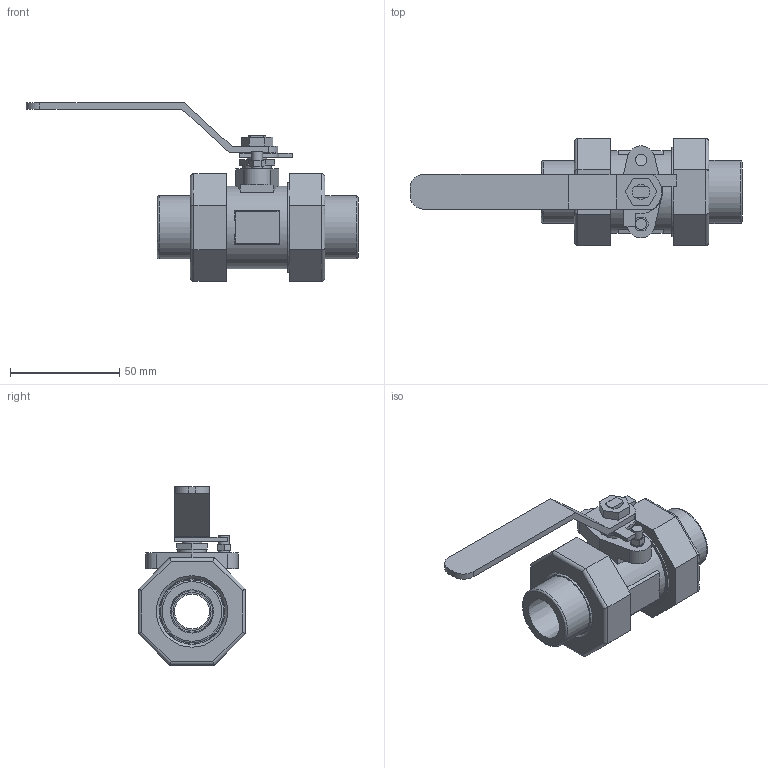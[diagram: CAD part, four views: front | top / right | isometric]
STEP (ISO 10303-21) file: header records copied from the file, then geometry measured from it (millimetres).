
FILE_DESCRIPTION((' '),'2;1');
FILE_NAME('N:\Technical Support\Private\Jomar Valve CAD\Ball Valves\CS and SS\2002N-DUE\.5 T-CS[SS]-2002N-DUE (100-993 [100-983])FusionCopy.stp.step','2017-01-24T13:03:28',(' '),(' '),' ','ACIS',' ');
FILE_SCHEMA(('CONFIG_CONTROL_DESIGN'));
Length unit declared in the file: inch
Products named in the file (14): N:\Technical Support\Private\Jomar Valve CAD\Ball Valves\CS and SS\2002N-DUE\.5 T-CS[SS]-2002N-DUE (100-993 [100-983])FusionCopy.stp.step; Body1; Body2; Body3; Body4; Body5; Body6; Body7; Body8; Body9; Body10; Body11; Body12; Body13
Assembly tree (13 placements, depth 2):
  N:\Technical Support\Private\Jomar Valve CAD\Ball Valves\CS and SS\2002N-DUE\.5 T-CS[SS]-2002N-DUE (100-993 [100-983])FusionCopy.stp.step
    Body1
    Body2
    Body3
    Body4
    Body5
    Body6
    Body7
    Body8
    Body9
    Body10
    Body11
    Body12
    Body13
Bounding box: 151.79 x 49.12 x 81.56 mm (x, y, z)
Volume: 106634.5 mm3; surface area: 44076.5 mm2
Topology: 13 solids, 13 shells, 202 faces, 450 edges, 293 vertices
Faces by surface type: plane 108, cylinder 49, bspline 42, cone 2, torus 1
Full cylindrical faces by diameter (mm): 4.978 x1, 5.029 x1, 5.334 x2, 6.198 x1, 6.934 x1, 8.89 x1, 13.03 x1, 15.875 x1, 17.399 x1, 21.793 x2, 28.143 x2, 28.829 x1, 29.845 x1, 30.099 x1, 30.48 x1, 34.925 x1, 37.719 x1, 39.116 x1, 40.97 x2
Entity records: 7656 total; most frequent: CARTESIAN_POINT 1317, DIRECTION 913, ORIENTED_EDGE 818, EDGE_CURVE 409, AXIS2_PLACEMENT_3D 317, VERTEX_POINT 288, EDGE_LOOP 281, VECTOR 279
